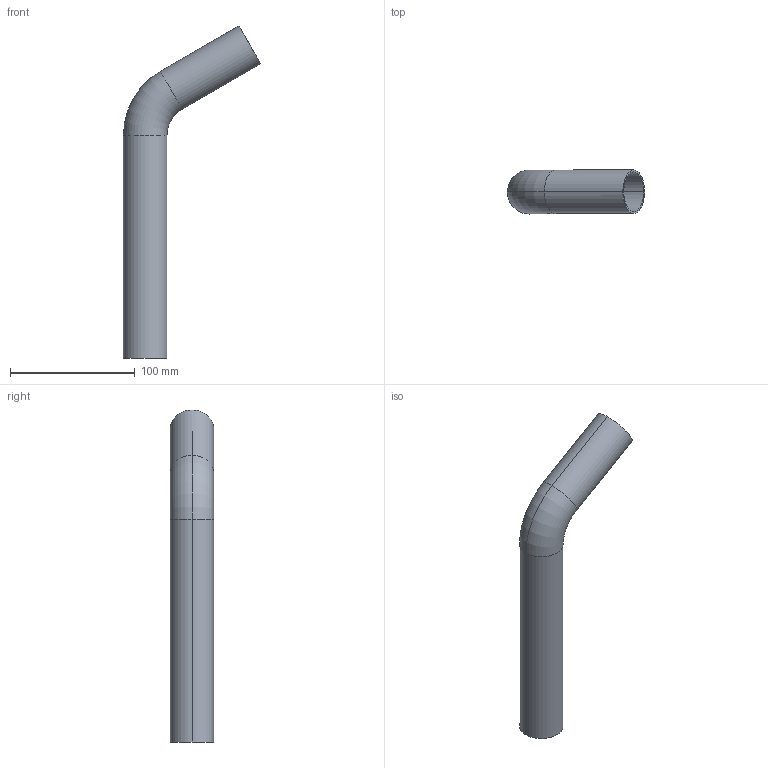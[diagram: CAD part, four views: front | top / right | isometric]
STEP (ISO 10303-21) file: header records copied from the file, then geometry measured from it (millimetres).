
FILE_DESCRIPTION(('OneSpaceDesigner STEP Export'),'2;1');
FILE_NAME('R2724 35x35.stp','2010-06-10T12:56:29',(''),(''),'OneSpace Designer STEP processor for AP214 (Solid Model)','OneSpace Modeling 15.00A 14-Mar-2007 (C) CoCreate Software GmbH','');
FILE_SCHEMA(('AUTOMOTIVE_DESIGN { 1 0 10303 214 1 1 1 1 }'));
Length unit declared in the file: millimetre
Products named in the file (2): R2724_35x35
Assembly tree (1 placements, depth 2):
  R2724_35x35
    R2724_35x35
Bounding box: 110.25 x 35 x 266.66 mm (x, y, z)
Volume: 46646.7 mm3; surface area: 62511.4 mm2
Topology: 1 solids, 1 shells, 14 faces, 30 edges, 18 vertices
Faces by surface type: cylinder 8, torus 4, plane 2
Entity records: 367 total; most frequent: ORIENTED_EDGE 60, DIRECTION 56, CARTESIAN_POINT 50, EDGE_CURVE 30, AXIS2_PLACEMENT_3D 24, VERTEX_POINT 18, EDGE_LOOP 16, CIRCLE 14
